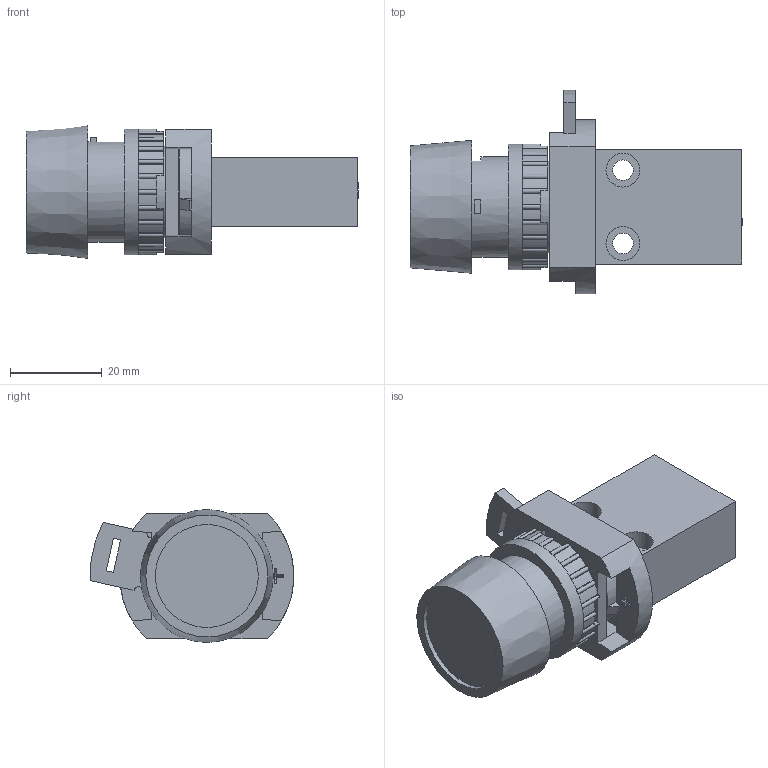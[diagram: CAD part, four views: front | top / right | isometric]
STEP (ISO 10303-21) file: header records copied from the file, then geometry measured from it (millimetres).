
FILE_DESCRIPTION (( 'STEP AP214' ), '1' );
FILE_NAME ('18-T-23-011---T-25-311_Airtec.step', '2018-11-15T13:09:26', ( '' ), ( '' ), 'SwSTEP 2.0', 'SolidWorks 2010', '' );
FILE_SCHEMA (( 'AUTOMOTIVE_DESIGN' ));
Length unit declared in the file: millimetre
Products named in the file (3): 18-T-23-011-Airtec; T-25-311_161206; 18-T-23-011---T-25-311_Airtec
Assembly tree (2 placements, depth 2):
  18-T-23-011---T-25-311_Airtec
    18-T-23-011-Airtec
    T-25-311_161206
Bounding box: 72.5 x 44.48 x 29 mm (x, y, z)
Volume: 33681.2 mm3; surface area: 13333.6 mm2
Topology: 2 solids, 2 shells, 370 faces, 1015 edges, 657 vertices
Faces by surface type: plane 173, cylinder 139, cone 44, torus 13, sphere 1
Full cylindrical faces by diameter (mm): 2.693 x2, 3.2 x2, 4.134 x2, 4.5 x2, 5.7 x2, 6 x1, 7.4 x4, 10 x1, 16 x1, 20 x1, 20.3 x1, 22 x1, 22.5 x1, 27.4 x1
Entity records: 12028 total; most frequent: CARTESIAN_POINT 2531, DIRECTION 2062, ORIENTED_EDGE 1934, EDGE_CURVE 967, AXIS2_PLACEMENT_3D 819, VERTEX_POINT 644, CIRCLE 444, EDGE_LOOP 431
